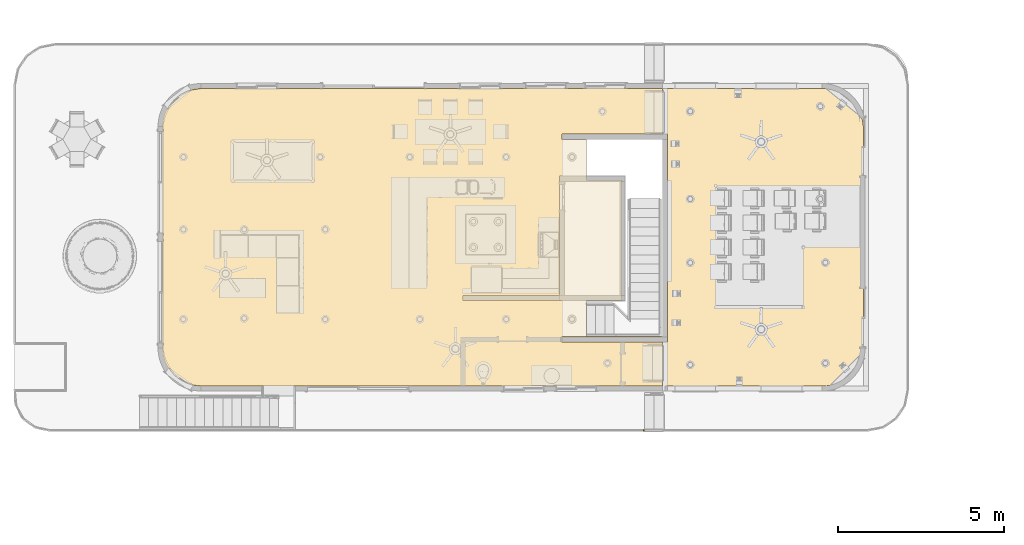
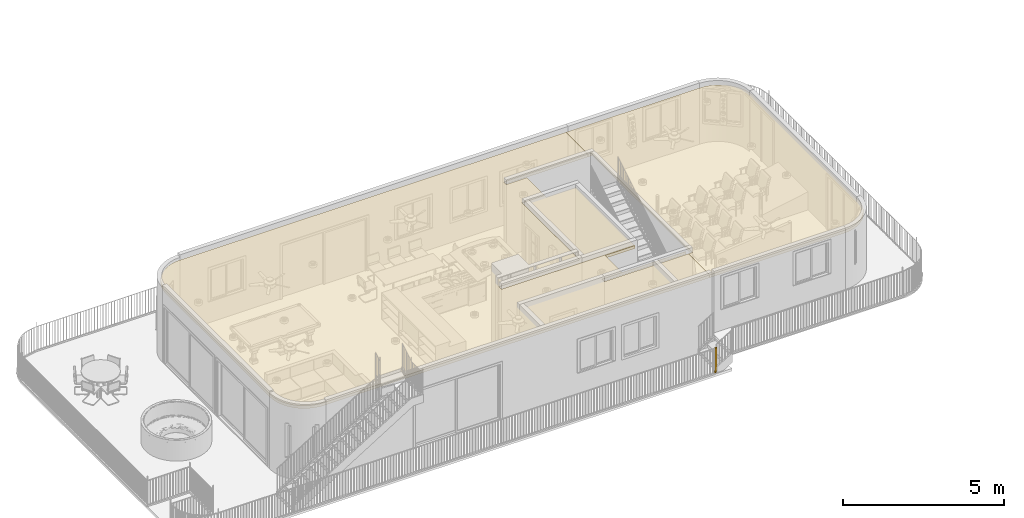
# One storey, part 9 of 21: 3 coverings, 1 railing.
"""IFC2X3 building model written with IfcOpenShell, lengths in feet."""

import ifcopenshell
import ifcopenshell.guid

model = None  # the IFC model being written
_history = None  # IfcOwnerHistory: only IFC2X3 demands one
_inside = {}  # id of a spatial element -> (the spatial element, [elements in it])
_under = {}  # id of a project, library or spatial element -> (it, [spatial elements below it])
_declared = {}  # id of a project -> (the project, [libraries it declares])
_typed = {}  # id of a type object -> (the type object, [elements of that type])
_made_of = {}  # id of a material, layer set ... -> (it, [elements and type objects made of it])


def new_model(schema):
    """Start an empty IFC model of exactly this schema.

    Asked for "IFC4X3", IfcOpenShell would pick the latest addendum, in which some entities
    have other attributes; the version numbers below select the first issue.
    IFC2X3 requires an IfcOwnerHistory on every rooted entity: one is made here for all.
    """
    global model, _history
    if schema == "IFC4X3":
        model = ifcopenshell.file(schema_version=(4, 3, 0, 0))
    else:
        model = ifcopenshell.file(schema=schema)
    _inside.clear()
    _under.clear()
    _declared.clear()
    _typed.clear()
    _made_of.clear()
    _history = None
    if model.schema == "IFC2X3":
        org = make("IfcOrganization", Name="unknown")
        user = make(
            "IfcPersonAndOrganization",
            ThePerson=make("IfcPerson", FamilyName="unknown"),
            TheOrganization=org,
        )
        app = make(
            "IfcApplication",
            ApplicationDeveloper=org,
            Version="unknown",
            ApplicationFullName="unknown",
            ApplicationIdentifier="unknown",
        )
        _history = make(
            "IfcOwnerHistory",
            OwningUser=user,
            OwningApplication=app,
            ChangeAction="ADDED",
            CreationDate=0,
        )
    return model


def make(cls, **values):
    """One entity of the class cls with the attributes given. An attribute that is None is left unset."""
    return model.create_entity(
        cls, **{name: value for name, value in values.items() if value is not None}
    )


def entity(cls, *values):
    """Any entity or typed value of the class cls, its attributes in the order of the schema. None: left unset."""
    e = model.create_entity(cls)
    for i, value in enumerate(values):
        if value is not None:
            e[i] = value
    return e


def rooted(cls, **values):
    """An entity with a GlobalId (a new one), such as an element, a storey or a relation."""
    return make(cls, GlobalId=ifcopenshell.guid.new(), OwnerHistory=_history, **values)


def si_unit(unit_type, name, prefix=None):
    """IfcSIUnit, for example si_unit("LENGTHUNIT", "METRE", prefix="MILLI")."""
    return make("IfcSIUnit", UnitType=unit_type, Prefix=prefix, Name=name)


def converted_unit(unit_type, name, factor, base, dimensions=None, offset=None):
    """IfcConversionBasedUnit, such as the inch: factor (a typed value) times the base unit."""
    return make(
        "IfcConversionBasedUnit"
        if offset is None
        else "IfcConversionBasedUnitWithOffset",
        ConversionOffset=offset,
        Dimensions=None
        if dimensions is None
        else entity("IfcDimensionalExponents", *dimensions),
        UnitType=unit_type,
        Name=name,
        ConversionFactor=make(
            "IfcMeasureWithUnit", ValueComponent=factor, UnitComponent=base
        ),
    )


def derived_unit(unit_type, elements):
    """IfcDerivedUnit: a product of units, each with its exponent."""
    return make(
        "IfcDerivedUnit",
        Elements=[
            make("IfcDerivedUnitElement", Unit=unit, Exponent=power)
            for unit, power in elements
        ],
        UnitType=unit_type,
    )


def assignment(units):
    """IfcUnitAssignment: the units of a project."""
    return None if units is None else make("IfcUnitAssignment", Units=units)


def point(xyz):
    """IfcCartesianPoint."""
    return None if xyz is None else make("IfcCartesianPoint", Coordinates=xyz)


def direction(xyz):
    """IfcDirection."""
    return None if xyz is None else make("IfcDirection", DirectionRatios=xyz)


def frame(location, z_axis=None, x_axis=None):
    """IfcAxis2Placement3D, a coordinate frame: its origin and axes. An axis left out is left unset."""
    return make(
        "IfcAxis2Placement3D",
        Location=point(location),
        Axis=direction(z_axis),
        RefDirection=direction(x_axis),
    )


def frame_2d(location, x_axis=None):
    """IfcAxis2Placement2D, a coordinate frame in the plane: its origin and x axis."""
    return make(
        "IfcAxis2Placement2D", Location=point(location), RefDirection=direction(x_axis)
    )


def origin():
    """The frame at (0, 0, 0) with its axes left unset."""
    return frame((0.0, 0.0, 0.0))


def origin_2d_with_axis():
    """The frame at (0, 0) in the plane with the x axis (1, 0) written out."""
    return frame_2d((0.0, 0.0), x_axis=(1.0, 0.0))


def place(relative_to, where):
    """IfcLocalPlacement: puts the frame where relative to a parent placement (None: the world)."""
    return make(
        "IfcLocalPlacement", PlacementRelTo=relative_to, RelativePlacement=where
    )


def context(
    kind, dimensions, precision=None, world=None, true_north=None, identifier=None
):
    """IfcGeometricRepresentationContext, for example the 3D "Model" context."""
    return make(
        "IfcGeometricRepresentationContext",
        ContextIdentifier=identifier,
        ContextType=kind,
        CoordinateSpaceDimension=dimensions,
        Precision=precision,
        WorldCoordinateSystem=world,
        TrueNorth=true_north,
    )


def subcontext(parent, identifier, kind, view, scale=None):
    """IfcGeometricRepresentationSubContext, for example "Body" below "Model"."""
    return make(
        "IfcGeometricRepresentationSubContext",
        ContextIdentifier=identifier,
        ContextType=kind,
        ParentContext=parent,
        TargetScale=scale,
        TargetView=view,
    )


def project(units=None, contexts=None):
    """IfcProject with its units and contexts."""
    return rooted(
        "IfcProject",
        Name="project",
        RepresentationContexts=contexts,
        UnitsInContext=assignment(units),
    )


def spatial(cls, under=None, at=None, **own):
    """A site, building, storey or space (cls), placed at a placement, below another one or the project."""
    s = rooted(cls, ObjectPlacement=at, **own)
    if under is not None:
        _under.setdefault(under.id(), (under, []))[1].append(s)
    return s


def polyline(points):
    """IfcPolyline through the points."""
    return make("IfcPolyline", Points=[point(p) for p in points])


def circle_curve(where, radius):
    """IfcCircle in the frame where."""
    return make("IfcCircle", Position=where, Radius=radius)


def parameter(value):
    """IfcParameterValue: where a trimmed curve begins or ends, as a parameter of its basis curve."""
    return model.create_entity("IfcParameterValue", value)


def trimmed(basis, trim1, trim2, sense, master):
    """IfcTrimmedCurve: the piece of a basis curve between two trims."""
    return make(
        "IfcTrimmedCurve",
        BasisCurve=basis,
        Trim1=trim1,
        Trim2=trim2,
        SenseAgreement=sense,
        MasterRepresentation=master,
    )


def segment(curve, same_sense, transition):
    """IfcCompositeCurveSegment."""
    return make(
        "IfcCompositeCurveSegment",
        Transition=transition,
        SameSense=same_sense,
        ParentCurve=curve,
    )


def composite_curve(segments, self_intersect=None):
    """IfcCompositeCurve: segments joined end to end."""
    return make("IfcCompositeCurve", Segments=segments, SelfIntersect=self_intersect)


def profile(cls, at=None, kind="AREA", **sizes):
    """A parametric profile (cls). Its sizes go by their IFC names, for example OverallWidth=200.0."""
    return make(cls, ProfileType=kind, Position=at, **sizes)


def rectangle(**sizes):
    """IfcRectangleProfileDef."""
    return profile("IfcRectangleProfileDef", **sizes)


def circle(**sizes):
    """IfcCircleProfileDef."""
    return profile("IfcCircleProfileDef", **sizes)


def outline(outer, holes=None, kind="AREA"):
    """IfcArbitraryClosedProfileDef: a profile drawn as a closed curve; with holes, ...WithVoids."""
    if holes is None:
        return make("IfcArbitraryClosedProfileDef", ProfileType=kind, OuterCurve=outer)
    return make(
        "IfcArbitraryProfileDefWithVoids",
        ProfileType=kind,
        OuterCurve=outer,
        InnerCurves=holes,
    )


def extrude(swept, where, along, depth):
    """IfcExtrudedAreaSolid: the profile swept, set in the frame where, extruded along a direction by depth."""
    return make(
        "IfcExtrudedAreaSolid",
        SweptArea=swept,
        Position=where,
        ExtrudedDirection=direction(along),
        Depth=depth,
    )


def shape(context_of_items, identifier, shape_type, items):
    """IfcShapeRepresentation: the items that make up one representation, for example the "Body"."""
    return make(
        "IfcShapeRepresentation",
        ContextOfItems=context_of_items,
        RepresentationIdentifier=identifier,
        RepresentationType=shape_type,
        Items=items,
    )


def material(Name=None, Category=None):
    """IfcMaterial."""
    return make("IfcMaterial", Name=Name, Category=Category)


def layer(
    of_material, thickness, ventilated=None, Name=None, Category=None, Priority=None
):
    """IfcMaterialLayer: one layer of a wall or slab, of a material (None: an air gap)."""
    return make(
        "IfcMaterialLayer",
        Material=of_material,
        LayerThickness=thickness,
        IsVentilated=ventilated,
        Name=Name,
        Category=Category,
        Priority=Priority,
    )


def layer_set(layers, Name=None):
    """IfcMaterialLayerSet."""
    return make("IfcMaterialLayerSet", MaterialLayers=layers, LayerSetName=Name)


def layer_usage(for_layer_set, set_direction, sense, offset, extent=None):
    """IfcMaterialLayerSetUsage: how a layer set lies in its element."""
    return make(
        "IfcMaterialLayerSetUsage",
        ForLayerSet=for_layer_set,
        LayerSetDirection=set_direction,
        DirectionSense=sense,
        OffsetFromReferenceLine=offset,
        ReferenceExtent=extent,
    )


def made_of(thing, what):
    """Note that an element or type object is made of a material, layer set ...; save() writes the relation."""
    if what is not None:
        _made_of.setdefault(what.id(), (what, []))[1].append(thing)
    return thing


def element(
    cls,
    number,
    at=None,
    inside=None,
    cuts=None,
    type_object=None,
    material=None,
    context=None,
    identifier="Body",
    shape_type=None,
    held_by="IfcProductDefinitionShape",
    body=None,
    shapes=None,
    **own,
):
    """One element of the class cls, such as IfcWall. Its Tag is "e" and its number.

    at: its placement. inside: the storey or other place that contains it. cuts: it is an
    opening in that element (IfcRelVoidsElement). A single representation is given by context,
    identifier, shape_type and body (its items); several are given by shapes. held_by: the class
    of the entity that holds the representations. save() writes the other relations.
    """
    e = rooted(cls, Tag="e%d" % number, ObjectPlacement=at, **own)
    if body is not None:
        shapes = [shape(context, identifier, shape_type, body)]
    if shapes is not None:
        e.Representation = make(held_by, Representations=shapes)
    if inside is not None:
        _inside.setdefault(inside.id(), (inside, []))[1].append(e)
    if cuts is not None:
        rooted(
            "IfcRelVoidsElement", RelatingBuildingElement=cuts, RelatedOpeningElement=e
        )
    if type_object is not None:
        _typed.setdefault(type_object.id(), (type_object, []))[1].append(e)
    return made_of(e, material)


def aggregate(whole, parts):
    """IfcRelAggregates: a whole, such as a stair, and the parts it consists of."""
    return rooted("IfcRelAggregates", RelatingObject=whole, RelatedObjects=parts)


def save(model, path):
    """Write the relations noted so far, then the file.

    IfcRelAggregates (storeys below a building ...), IfcRelContainedInSpatialStructure (elements
    in a storey), IfcRelDefinesByType, IfcRelAssociatesMaterial and IfcRelDeclares: one each for
    every whole, place, type object, material and project.
    """
    for whole, parts in _under.values():
        aggregate(whole, parts)
    for where, things in _inside.values():
        rooted(
            "IfcRelContainedInSpatialStructure",
            RelatedElements=things,
            RelatingStructure=where,
        )
    for kind, things in _typed.values():
        rooted("IfcRelDefinesByType", RelatedObjects=things, RelatingType=kind)
    for what, things in _made_of.values():
        rooted("IfcRelAssociatesMaterial", RelatedObjects=things, RelatingMaterial=what)
    for by, libraries in _declared.values():
        rooted("IfcRelDeclares", RelatingContext=by, RelatedDefinitions=libraries)
    model.write(path)


model = new_model("IFC2X3")

# Units and contexts
model_context = context("Model", 3, precision=0.0001, world=origin(), true_north=direction((6.12303176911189e-17, 1.0)))
body_context = subcontext(model_context, "Body", "Model", "MODEL_VIEW")
ifc_project = project(units=[converted_unit("LENGTHUNIT", "FOOT", entity("IfcRatioMeasure", 0.3048), si_unit("LENGTHUNIT", "METRE"), dimensions=[1, 0, 0, 0, 0, 0, 0]), converted_unit("AREAUNIT", "SQUARE FOOT", entity("IfcRatioMeasure", 0.09290304), si_unit("AREAUNIT", "SQUARE_METRE"), dimensions=[2, 0, 0, 0, 0, 0, 0]), converted_unit("VOLUMEUNIT", "CUBIC FOOT", entity("IfcRatioMeasure", 0.028316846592), si_unit("VOLUMEUNIT", "CUBIC_METRE"), dimensions=[3, 0, 0, 0, 0, 0, 0]), converted_unit("PLANEANGLEUNIT", "DEGREE", entity("IfcRatioMeasure", 0.0174532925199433), si_unit("PLANEANGLEUNIT", "RADIAN"), dimensions=[0, 0, 0, 0, 0, 0, 0]), si_unit("MASSUNIT", "GRAM", prefix="KILO"), derived_unit("MASSDENSITYUNIT", [(si_unit("MASSUNIT", "GRAM", prefix="KILO"), 1), (si_unit("LENGTHUNIT", "METRE"), -3)]), si_unit("TIMEUNIT", "SECOND"), si_unit("FREQUENCYUNIT", "HERTZ"), si_unit("THERMODYNAMICTEMPERATUREUNIT", "DEGREE_CELSIUS"), derived_unit("THERMALTRANSMITTANCEUNIT", [(si_unit("MASSUNIT", "GRAM", prefix="KILO"), 1), (si_unit("THERMODYNAMICTEMPERATUREUNIT", "KELVIN"), -1), (si_unit("TIMEUNIT", "SECOND"), -3)]), derived_unit("VOLUMETRICFLOWRATEUNIT", [(si_unit("LENGTHUNIT", "METRE"), 3), (si_unit("TIMEUNIT", "SECOND"), -1)]), si_unit("ELECTRICCURRENTUNIT", "AMPERE"), si_unit("ELECTRICVOLTAGEUNIT", "VOLT"), si_unit("POWERUNIT", "WATT"), si_unit("FORCEUNIT", "NEWTON"), si_unit("ILLUMINANCEUNIT", "LUX"), si_unit("LUMINOUSFLUXUNIT", "LUMEN"), si_unit("LUMINOUSINTENSITYUNIT", "CANDELA"), derived_unit("USERDEFINED", [(si_unit("MASSUNIT", "GRAM", prefix="KILO"), -1), (si_unit("LENGTHUNIT", "METRE"), -2), (si_unit("TIMEUNIT", "SECOND"), 3), (si_unit("LUMINOUSFLUXUNIT", "LUMEN"), 1)]), derived_unit("LINEARVELOCITYUNIT", [(si_unit("LENGTHUNIT", "METRE"), 1), (si_unit("TIMEUNIT", "SECOND"), -1)]), si_unit("PRESSUREUNIT", "PASCAL"), derived_unit("USERDEFINED", [(si_unit("LENGTHUNIT", "METRE"), -2), (si_unit("MASSUNIT", "GRAM", prefix="KILO"), 1), (si_unit("TIMEUNIT", "SECOND"), -2)])], contexts=[model_context])

# Site, building, storey
site_placement = place(None, origin())
site = spatial("IfcSite", under=ifc_project, at=site_placement, Name="表面", CompositionType="ELEMENT")
building_placement = place(site_placement, origin())
building = spatial("IfcBuilding", under=site, at=building_placement, CompositionType="ELEMENT")
storey_placement = place(building_placement, origin())
storey = spatial("IfcBuildingStorey", under=building, at=storey_placement, Name="Level 1", CompositionType="ELEMENT", Elevation=0.0)

# Coverings
ifc_material_1 = material(Name="Metal - Stud Layer")
ifc_layer_1 = layer(ifc_material_1, 0.302083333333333)
ifc_material_2 = material(Name="Gypsum Wall Board")
ifc_layer_2 = layer(ifc_material_2, 0.0520833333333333)
ifc_layer_set = layer_set([ifc_layer_1, ifc_layer_2], Name="复合天花板:GWB on Mtl. Stud")
ifc_layer_usage_1 = layer_usage(ifc_layer_set, "AXIS3", "POSITIVE", 0.0)
covering_1_placement = place(storey_placement, origin())
element("IfcCovering", 1, at=covering_1_placement, inside=storey, material=ifc_layer_usage_1, Name="复合天花板:GWB on Mtl. Stud", ObjectType="复合天花板:GWB on Mtl. Stud", PredefinedType="CEILING", context=body_context, shape_type="SweptSolid", body=[
    extrude(outline(composite_curve([segment(polyline([(-4.20376822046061, -6.17666666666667), (-4.20376822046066, 9.48999999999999)]), True, "CONTINUOUS"), segment(polyline([(-4.20376822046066, 9.48999999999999), (-4.28710155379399, 9.48999999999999)]), True, "CONTINUOUS"), segment(polyline([(-4.28710155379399, 9.48999999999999), (-4.28710155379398, 5.98999999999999)]), True, "CONTINUOUS"), segment(polyline([(-4.28710155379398, 5.98999999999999), (-7.76471136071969, 5.98999999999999)]), True, "CONTINUOUS"), segment(polyline([(-7.76471136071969, 5.98999999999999), (-7.76471136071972, 13.49)]), True, "CONTINUOUS"), segment(polyline([(-7.76471136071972, 13.49), (-7.787101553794, 13.49)]), True, "CONTINUOUS"), segment(polyline([(-7.787101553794, 13.49), (-7.78710155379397, 3.57333333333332)]), True, "CONTINUOUS"), segment(polyline([(-7.78710155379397, 3.57333333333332), (-8.28710155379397, 3.57333333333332)]), True, "CONTINUOUS"), segment(polyline([(-8.28710155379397, 3.57333333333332), (-8.287101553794, 13.49)]), True, "CONTINUOUS"), segment(polyline([(-8.287101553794, 13.49), (-12.6204348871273, 13.49)]), True, "CONTINUOUS"), segment(polyline([(-12.6204348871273, 13.49), (-12.6204348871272, -32.01)]), True, "CONTINUOUS"), segment(trimmed(circle_curve(frame_2d((-8.62043488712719, -32.01), x_axis=(0.0, 1.0)), 4.0), [parameter(90.0000000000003)], [parameter(180.0)], True, "PARAMETER"), True, "CONTINUOUS"), segment(polyline([(-8.62043488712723, -36.01), (12.7128984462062, -36.01)]), True, "CONTINUOUS"), segment(trimmed(circle_curve(frame_2d((12.7128984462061, -32.01), x_axis=(0.0, 1.0)), 4.0), [parameter(180.0)], [parameter(270.0)], True, "PARAMETER"), True, "CONTINUOUS"), segment(polyline([(16.7128984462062, -32.01), (16.712898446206, 13.49)]), True, "CONTINUOUS"), segment(polyline([(16.712898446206, 13.49), (12.212898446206, 13.49)]), True, "CONTINUOUS"), segment(polyline([(12.212898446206, 13.49), (12.212898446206, 3.57333333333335)]), True, "CONTINUOUS"), segment(polyline([(12.212898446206, 3.57333333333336), (11.712898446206, 3.57333333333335)]), True, "CONTINUOUS"), segment(polyline([(11.712898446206, 3.57333333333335), (11.712898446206, 5.99000000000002)]), True, "CONTINUOUS"), segment(polyline([(11.712898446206, 5.99000000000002), (8.07094434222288, 5.99000000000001)]), True, "CONTINUOUS"), segment(polyline([(8.07094434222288, 5.99000000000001), (8.07094434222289, 3.32333333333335)]), True, "CONTINUOUS"), segment(polyline([(8.07094434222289, 3.32333333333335), (-3.70376822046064, 3.32333333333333)]), True, "CONTINUOUS"), segment(polyline([(-3.70376822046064, 3.32333333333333), (-3.70376822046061, -6.17666666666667)]), True, "CONTINUOUS"), segment(polyline([(-3.70376822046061, -6.17666666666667), (-4.20376822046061, -6.17666666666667)]), True, "CONTINUOUS")], self_intersect=False)), frame((2.22508691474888, -0.28050475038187, 9.0), z_axis=(0.0, 0.0, -1.0), x_axis=(0.0, 1.0, 0.0)), (0.0, 0.0, -1.0), 0.354166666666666),
])
ifc_layer_usage_2 = layer_usage(ifc_layer_set, "AXIS3", "POSITIVE", 0.0)
covering_2_placement = place(storey_placement, origin())
element("IfcCovering", 2, at=covering_2_placement, inside=storey, material=ifc_layer_usage_2, Name="复合天花板:GWB on Mtl. Stud", ObjectType="复合天花板:GWB on Mtl. Stud", PredefinedType="CEILING", context=body_context, shape_type="SweptSolid", body=[
    extrude(outline(composite_curve([segment(trimmed(circle_curve(frame_2d((-31.4722222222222, -9.50213239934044), x_axis=(1.0, 0.0)), 4.0), [parameter(180.0)], [parameter(270.0)], True, "PARAMETER"), True, "CONTINUOUS"), segment(polyline([(-31.4722222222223, -13.5021323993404), (13.7777777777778, -13.5021323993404)]), True, "CONTINUOUS"), segment(polyline([(13.7777777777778, -13.5021323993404), (13.7777777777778, -9.16879906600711)]), True, "CONTINUOUS"), segment(polyline([(13.7777777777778, -9.16879906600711), (3.77777777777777, -9.16879906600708)]), True, "CONTINUOUS"), segment(polyline([(3.77777777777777, -9.16879906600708), (3.77777777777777, -8.66879906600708)]), True, "CONTINUOUS"), segment(polyline([(3.77777777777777, -8.66879906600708), (6.27777777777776, -8.66879906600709)]), True, "CONTINUOUS"), segment(polyline([(6.27777777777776, -8.66879906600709), (6.27777777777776, -8.6464088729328)]), True, "CONTINUOUS"), segment(polyline([(6.27777777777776, -8.6464088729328), (6.27777777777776, -5.31307553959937)]), True, "CONTINUOUS"), segment(polyline([(6.27777777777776, -5.31307553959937), (6.27777777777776, -5.16879906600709)]), True, "CONTINUOUS"), segment(polyline([(6.27777777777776, -5.16879906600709), (6.27777777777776, -5.08546573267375)]), True, "CONTINUOUS"), segment(polyline([(6.27777777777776, -5.08546573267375), (9.77777777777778, -5.08546573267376)]), True, "CONTINUOUS"), segment(polyline([(9.77777777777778, -5.08546573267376), (9.7777777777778, 6.8312009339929)]), True, "CONTINUOUS"), segment(polyline([(9.7777777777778, 6.8312009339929), (6.2777777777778, 6.83120093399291)]), True, "CONTINUOUS"), segment(polyline([(6.2777777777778, 6.83120093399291), (6.27777777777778, 10.8312009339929)]), True, "CONTINUOUS"), segment(polyline([(6.27777777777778, 10.8312009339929), (3.86111111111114, 10.8312009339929)]), True, "CONTINUOUS"), segment(polyline([(3.86111111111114, 10.8312009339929), (3.86111111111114, 11.3312009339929)]), True, "CONTINUOUS"), segment(polyline([(3.86111111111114, 11.3312009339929), (13.7777777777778, 11.3312009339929)]), True, "CONTINUOUS"), segment(polyline([(13.7777777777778, 11.3312009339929), (13.7777777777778, 15.8312009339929)]), True, "CONTINUOUS"), segment(polyline([(13.7777777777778, 15.8312009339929), (-31.4722222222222, 15.831200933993)]), True, "CONTINUOUS"), segment(trimmed(circle_curve(frame_2d((-31.4722222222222, 11.831200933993), x_axis=(1.0, 0.0)), 4.0), [parameter(89.9999999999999)], [parameter(180.0)], True, "PARAMETER"), True, "CONTINUOUS"), segment(polyline([(-35.4722222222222, 11.8312009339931), (-35.4722222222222, -9.50213239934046)]), True, "CONTINUOUS")], self_intersect=False)), frame((1.93730913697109, 0.601192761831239, 9.0)), (0.0, 0.0, 1.0), 0.354166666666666),
])
ifc_layer_usage_3 = layer_usage(ifc_layer_set, "AXIS3", "POSITIVE", 0.0)
covering_3_placement = place(storey_placement, origin())
element("IfcCovering", 3, at=covering_3_placement, inside=storey, material=ifc_layer_usage_3, Name="复合天花板:GWB on Mtl. Stud", ObjectType="复合天花板:GWB on Mtl. Stud", PredefinedType="CEILING", context=body_context, shape_type="SweptSolid", body=[
    extrude(outline(composite_curve([segment(polyline([(-8.60000000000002, -14.7), (7.23333333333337, -14.7)]), True, "CONTINUOUS"), segment(polyline([(7.23333333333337, -14.7), (7.23333333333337, -10.2)]), True, "CONTINUOUS"), segment(polyline([(7.23333333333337, -10.2), (6.73333333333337, -10.2)]), True, "CONTINUOUS"), segment(polyline([(6.73333333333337, -10.2), (6.73333333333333, 10.3)]), True, "CONTINUOUS"), segment(polyline([(6.73333333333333, 10.3), (7.23333333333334, 10.3)]), True, "CONTINUOUS"), segment(polyline([(7.23333333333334, 10.3), (7.23333333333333, 14.6333333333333)]), True, "CONTINUOUS"), segment(polyline([(7.23333333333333, 14.6333333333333), (-8.60000000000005, 14.6333333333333)]), True, "CONTINUOUS"), segment(trimmed(circle_curve(frame_2d((-8.60000000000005, 10.6333333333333), x_axis=(-1.0, 0.0)), 4.0), [parameter(269.999999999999)], [parameter(360.0)], True, "PARAMETER"), True, "CONTINUOUS"), segment(polyline([(-12.6, 10.6333333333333), (-12.6, -10.7)]), True, "CONTINUOUS"), segment(trimmed(circle_curve(frame_2d((-8.60000000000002, -10.7), x_axis=(-1.0, 0.0)), 4.0), [parameter(360.0)], [parameter(89.9999999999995)], True, "PARAMETER"), True, "CONTINUOUS")], self_intersect=False)), frame((22.9484202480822, 1.7323936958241, 9.0), z_axis=(0.0, 0.0, 1.0), x_axis=(-1.0, 0.0, 0.0)), (0.0, 0.0, 1.0), 0.354166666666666),
])

# Railing
railing_placement = place(storey_placement, origin())
element("IfcRailing", 4, at=railing_placement, inside=storey, Name="栏杆扶手:Handrail - Rectangular", ObjectType="栏杆扶手:Handrail - Rectangular", PredefinedType="NOTDEFINED", context=body_context, shape_type="SweptSolid", body=[
    extrude(rectangle(XDim=0.0625, YDim=0.0625, at=origin_2d_with_axis()), frame((13.9338369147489, -17.3592729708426, 0.666666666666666)), (0.0, 0.0, 1.0), 2.91666666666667),
    extrude(rectangle(XDim=0.0625, YDim=0.0625, at=origin_2d_with_axis()), frame((13.8296702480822, -17.3592729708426, 0.666666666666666)), (0.0, 0.0, 1.0), 2.91666666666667),
    extrude(rectangle(XDim=0.16666666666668, YDim=0.166666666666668, at=frame_2d((-8.88178419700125e-16, -1.77635683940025e-15), x_axis=(1.0, 0.0))), frame((13.8817535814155, -17.2759396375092, 0.5)), (0.0, 0.0, 1.0), 0.166666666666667),
    extrude(circle(Radius=0.0416666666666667, at=origin_2d_with_axis()), frame((13.7984202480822, -17.3592729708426, 3.625), z_axis=(1.0, 0.0, 0.0), x_axis=(0.0, -1.0, 0.0)), (0.0, 0.0, 1.0), 0.16666666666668),
])

save(model, "model.ifc")
